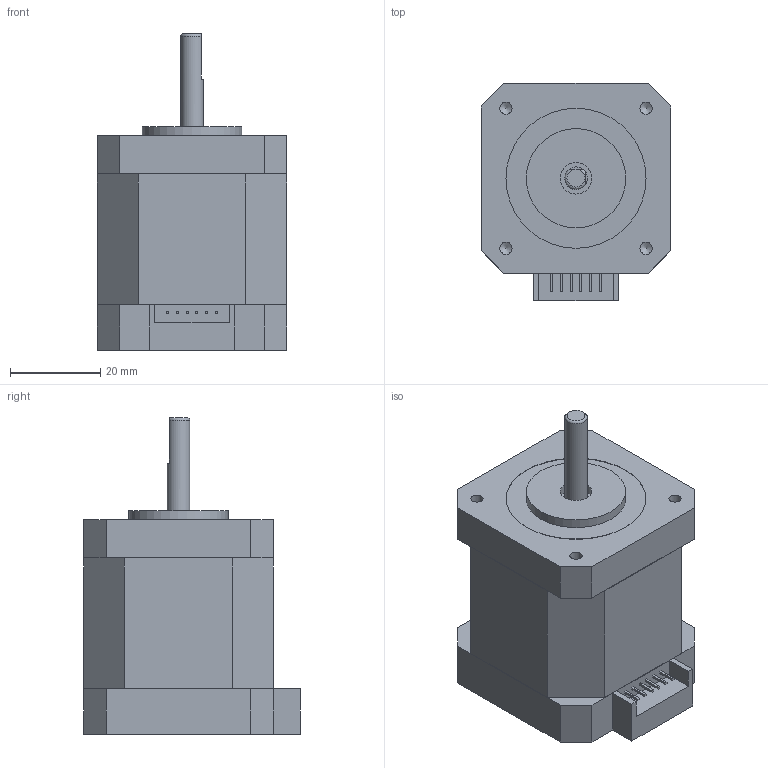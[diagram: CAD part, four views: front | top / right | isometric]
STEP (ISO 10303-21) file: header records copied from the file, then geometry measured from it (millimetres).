
FILE_DESCRIPTION(/* description */ (''),/* implementation_level */ '2;1');
FILE_NAME(/* name */ 'STP-43D3069-01.stp',/* time_stamp */ '2018-08-13T14:21:39+08:00',/* author */ (''),/* organization */ (''),/* preprocessor_version */ 'ST-DEVELOPER v11',/* originating_system */ 'SIEMENS UGS NX 6.0',/* authorisation */ '');
FILE_SCHEMA (('CONFIG_CONTROL_DESIGN'));
Length unit declared in the file: millimetre
Products named in the file (1): STP-43D3069-01
Bounding box: 42 x 48 x 70 mm (x, y, z)
Volume: 79536.7 mm3; surface area: 12113.9 mm2
Topology: 1 solids, 1 shells, 158 faces, 401 edges, 268 vertices
Faces by surface type: plane 133, cylinder 15, cone 8, torus 2
Full cylindrical faces by diameter (mm): 2.7 x4, 4.414 x4, 5 x2, 7 x2, 8.5 x1, 22 x1, 31 x1
Entity records: 4546 total; most frequent: CARTESIAN_POINT 795, ORIENTED_EDGE 722, DIRECTION 714, EDGE_CURVE 361, LINE 318, VECTOR 318, VERTEX_POINT 255, EDGE_LOOP 204
